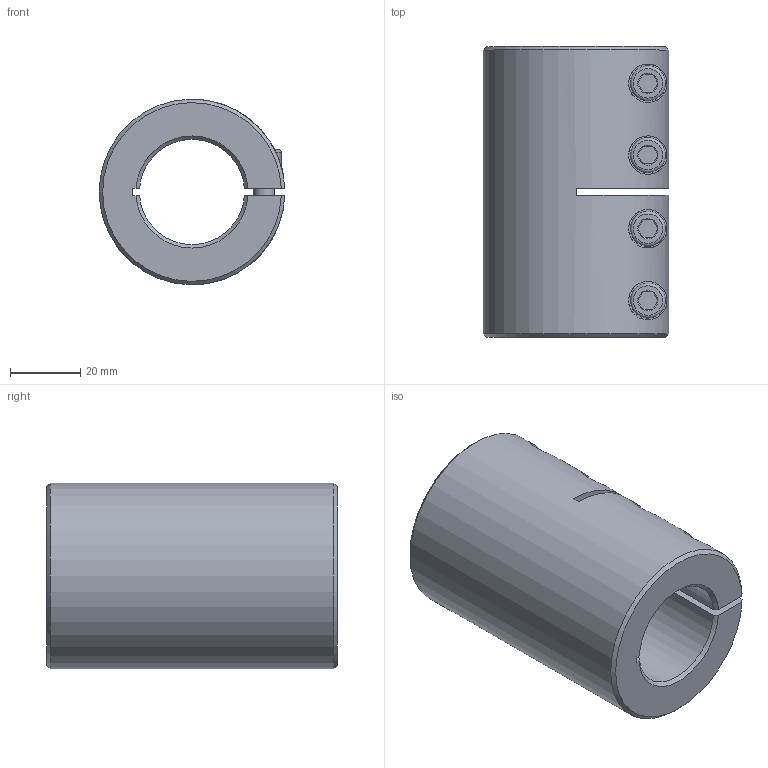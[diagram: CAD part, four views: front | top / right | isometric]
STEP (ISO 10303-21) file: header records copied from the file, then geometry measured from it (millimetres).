
FILE_DESCRIPTION( ( 'Unknown' ), '1' );
FILE_NAME( 'K:/Konstruktion/Fertigungszeichnungen/Schalenkupplung/KBST/KBST-30.stp', 'Unknown', ( 'Unknown' ), ( 'Unknown' ), 'PSStep 16.0.42', 'Unknown', ' ' );
FILE_SCHEMA( ( 'AUTOMOTIVE_DESIGN { 1 0 10303 214 1 1 1 1 }' ) );
Length unit declared in the file: millimetre
Products named in the file (3): Assem1; KBST-30; ISO EN DIN 4762 M6x18
Assembly tree (5 placements, depth 2):
  Assem1
    KBST-30
    ISO EN DIN 4762 M6x18  x4
Bounding box: 52.98 x 83 x 53 mm (x, y, z)
Volume: 118381.2 mm3; surface area: 32252.2 mm2
Topology: 5 solids, 5 shells, 140 faces, 278 edges, 168 vertices
Faces by surface type: plane 67, cone 34, cylinder 31, torus 8
Full cylindrical faces by diameter (mm): 4.917 x4, 5 x4, 6 x8, 6.6 x4, 10 x4
Entity records: 2936 total; most frequent: CARTESIAN_POINT 933, DIRECTION 298, ORIENTED_EDGE 258, EDGE_CURVE 129, AXIS2_PLACEMENT_3D 124, EDGE_LOOP 104, VERTEX_POINT 91, FACE_OUTER_BOUND 79
